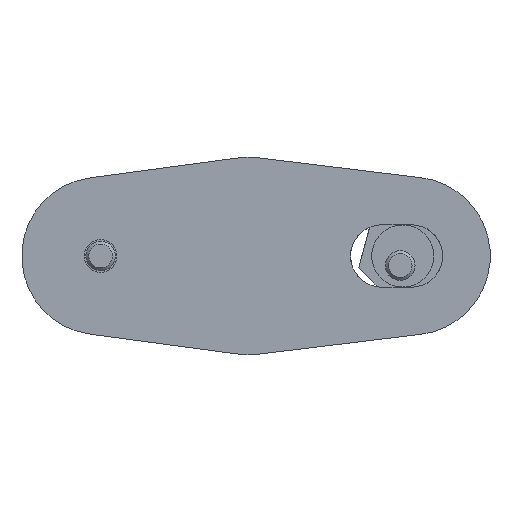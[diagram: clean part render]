
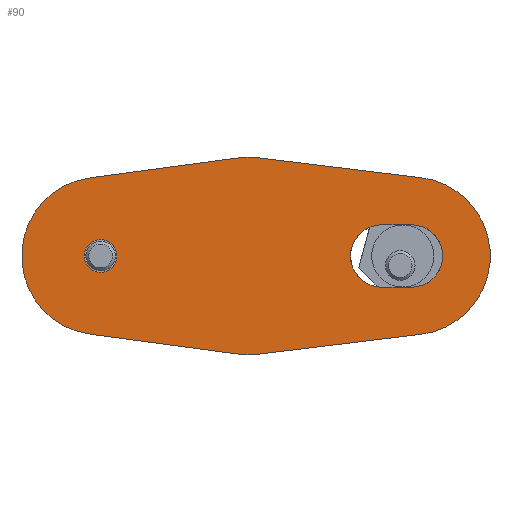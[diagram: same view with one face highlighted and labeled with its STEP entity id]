
A CAD part, front view. The second image highlights one B-rep face of the part: STEP entity #90.
In plain terms, the highlighted planar face has unit normal (0, -1, 0).
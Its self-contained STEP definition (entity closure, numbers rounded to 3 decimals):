
#90 = ADVANCED_FACE( '', ( #175, #176, #177 ), #178, .F. );
#175 = FACE_BOUND( '', #329, .T. );
#176 = FACE_BOUND( '', #330, .T. );
#177 = FACE_OUTER_BOUND( '', #331, .T. );
#178 = PLANE( '', #332 );
#329 = EDGE_LOOP( '', ( #576 ) );
#330 = EDGE_LOOP( '', ( #577, #578, #579, #580 ) );
#331 = EDGE_LOOP( '', ( #581, #582, #583, #584, #585, #586, #587, #588 ) );
#332 = AXIS2_PLACEMENT_3D( '', #589, #590, #591 );
#576 = ORIENTED_EDGE( '', *, *, #967, .T. );
#577 = ORIENTED_EDGE( '', *, *, #968, .T. );
#578 = ORIENTED_EDGE( '', *, *, #927, .T. );
#579 = ORIENTED_EDGE( '', *, *, #924, .T. );
#580 = ORIENTED_EDGE( '', *, *, #930, .T. );
#581 = ORIENTED_EDGE( '', *, *, #933, .F. );
#582 = ORIENTED_EDGE( '', *, *, #955, .F. );
#583 = ORIENTED_EDGE( '', *, *, #952, .F. );
#584 = ORIENTED_EDGE( '', *, *, #949, .F. );
#585 = ORIENTED_EDGE( '', *, *, #946, .F. );
#586 = ORIENTED_EDGE( '', *, *, #943, .F. );
#587 = ORIENTED_EDGE( '', *, *, #940, .F. );
#588 = ORIENTED_EDGE( '', *, *, #937, .F. );
#589 = CARTESIAN_POINT( '', ( -15., 0., 0. ) );
#590 = DIRECTION( '', ( 0., 1., 0. ) );
#591 = DIRECTION( '', ( 0., 0., 1. ) );
#924 = EDGE_CURVE( '', #1071, #1072, #1073, .T. );
#927 = EDGE_CURVE( '', #1076, #1071, #1077, .T. );
#930 = EDGE_CURVE( '', #1072, #1080, #1081, .T. );
#933 = EDGE_CURVE( '', #1084, #1085, #1086, .T. );
#937 = EDGE_CURVE( '', #1085, #1092, #1093, .T. );
#940 = EDGE_CURVE( '', #1092, #1097, #1098, .T. );
#943 = EDGE_CURVE( '', #1097, #1102, #1103, .T. );
#946 = EDGE_CURVE( '', #1102, #1107, #1108, .T. );
#949 = EDGE_CURVE( '', #1107, #1112, #1113, .T. );
#952 = EDGE_CURVE( '', #1112, #1117, #1118, .T. );
#955 = EDGE_CURVE( '', #1117, #1084, #1122, .T. );
#967 = EDGE_CURVE( '', #1142, #1142, #1143, .T. );
#968 = EDGE_CURVE( '', #1080, #1076, #1144, .T. );
#1071 = VERTEX_POINT( '', #1310 );
#1072 = VERTEX_POINT( '', #1311 );
#1073 = LINE( '', #1312, #1313 );
#1076 = VERTEX_POINT( '', #1318 );
#1077 = CIRCLE( '', #1319, 3.17 );
#1080 = VERTEX_POINT( '', #1323 );
#1081 = CIRCLE( '', #1324, 3.17 );
#1084 = VERTEX_POINT( '', #1328 );
#1085 = VERTEX_POINT( '', #1329 );
#1086 = LINE( '', #1330, #1331 );
#1092 = VERTEX_POINT( '', #1340 );
#1093 = CIRCLE( '', #1341, 8. );
#1097 = VERTEX_POINT( '', #1346 );
#1098 = LINE( '', #1347, #1348 );
#1102 = VERTEX_POINT( '', #1354 );
#1103 = CIRCLE( '', #1355, 10. );
#1107 = VERTEX_POINT( '', #1360 );
#1108 = LINE( '', #1361, #1362 );
#1112 = VERTEX_POINT( '', #1368 );
#1113 = CIRCLE( '', #1369, 8. );
#1117 = VERTEX_POINT( '', #1374 );
#1118 = LINE( '', #1375, #1376 );
#1122 = CIRCLE( '', #1382, 10. );
#1142 = VERTEX_POINT( '', #1409 );
#1143 = CIRCLE( '', #1410, 1.65 );
#1144 = LINE( '', #1411, #1412 );
#1310 = CARTESIAN_POINT( '', ( 13.5, 0., 3.17 ) );
#1311 = CARTESIAN_POINT( '', ( 16.5, 0., 3.17 ) );
#1312 = CARTESIAN_POINT( '', ( 13.5, 0., 3.17 ) );
#1313 = VECTOR( '', #1639, 1000. );
#1318 = CARTESIAN_POINT( '', ( 13.5, 0., -3.17 ) );
#1319 = AXIS2_PLACEMENT_3D( '', #1642, #1643, #1644 );
#1323 = CARTESIAN_POINT( '', ( 16.5, 0., -3.17 ) );
#1324 = AXIS2_PLACEMENT_3D( '', #1649, #1650, #1651 );
#1328 = CARTESIAN_POINT( '', ( -1.333, 0., -9.911 ) );
#1329 = CARTESIAN_POINT( '', ( -16.067, 0., -7.929 ) );
#1330 = CARTESIAN_POINT( '', ( -1.333, 0., -9.911 ) );
#1331 = VECTOR( '', #1656, 1000. );
#1340 = CARTESIAN_POINT( '', ( -16.067, 0., 7.929 ) );
#1341 = AXIS2_PLACEMENT_3D( '', #1660, #1661, #1662 );
#1346 = CARTESIAN_POINT( '', ( -1.333, 0., 9.911 ) );
#1347 = CARTESIAN_POINT( '', ( -16.067, 0., 7.929 ) );
#1348 = VECTOR( '', #1667, 1000. );
#1354 = CARTESIAN_POINT( '', ( 1.212, 0., 9.926 ) );
#1355 = AXIS2_PLACEMENT_3D( '', #1670, #1671, #1672 );
#1360 = CARTESIAN_POINT( '', ( 17.47, 0., 7.941 ) );
#1361 = CARTESIAN_POINT( '', ( 1.212, 0., 9.926 ) );
#1362 = VECTOR( '', #1677, 1000. );
#1368 = CARTESIAN_POINT( '', ( 17.47, 0., -7.941 ) );
#1369 = AXIS2_PLACEMENT_3D( '', #1680, #1681, #1682 );
#1374 = CARTESIAN_POINT( '', ( 1.212, 0., -9.926 ) );
#1375 = CARTESIAN_POINT( '', ( 17.47, 0., -7.941 ) );
#1376 = VECTOR( '', #1687, 1000. );
#1382 = AXIS2_PLACEMENT_3D( '', #1690, #1691, #1692 );
#1409 = CARTESIAN_POINT( '', ( -13.35, 0., 0. ) );
#1410 = AXIS2_PLACEMENT_3D( '', #1712, #1713, #1714 );
#1411 = CARTESIAN_POINT( '', ( 16.5, 0., -3.17 ) );
#1412 = VECTOR( '', #1715, 1000. );
#1639 = DIRECTION( '', ( 1., 0., 0. ) );
#1642 = CARTESIAN_POINT( '', ( 13.5, 0., 0. ) );
#1643 = DIRECTION( '', ( 0., 1., 0. ) );
#1644 = DIRECTION( '', ( 1., 0., 0. ) );
#1649 = CARTESIAN_POINT( '', ( 16.5, 0., 0. ) );
#1650 = DIRECTION( '', ( 0., 1., 0. ) );
#1651 = DIRECTION( '', ( 1., 0., 0. ) );
#1656 = DIRECTION( '', ( -0.991, 0., 0.133 ) );
#1660 = CARTESIAN_POINT( '', ( -15., 0., 0. ) );
#1661 = DIRECTION( '', ( 0., 1., 0. ) );
#1662 = DIRECTION( '', ( 1., 0., 0. ) );
#1667 = DIRECTION( '', ( 0.991, 0., 0.133 ) );
#1670 = CARTESIAN_POINT( '', ( 0., 0., 0. ) );
#1671 = DIRECTION( '', ( 0., 1., 0. ) );
#1672 = DIRECTION( '', ( 1., 0., 0. ) );
#1677 = DIRECTION( '', ( 0.993, 0., -0.121 ) );
#1680 = CARTESIAN_POINT( '', ( 16.5, 0., 0. ) );
#1681 = DIRECTION( '', ( 0., 1., 0. ) );
#1682 = DIRECTION( '', ( 1., 0., 0. ) );
#1687 = DIRECTION( '', ( -0.993, 0., -0.121 ) );
#1690 = CARTESIAN_POINT( '', ( 0., 0., 0. ) );
#1691 = DIRECTION( '', ( 0., 1., 0. ) );
#1692 = DIRECTION( '', ( 1., 0., 0. ) );
#1712 = CARTESIAN_POINT( '', ( -15., 0., 0. ) );
#1713 = DIRECTION( '', ( 0., 1., 0. ) );
#1714 = DIRECTION( '', ( 1., 0., 0. ) );
#1715 = DIRECTION( '', ( -1., 0., 0. ) );
